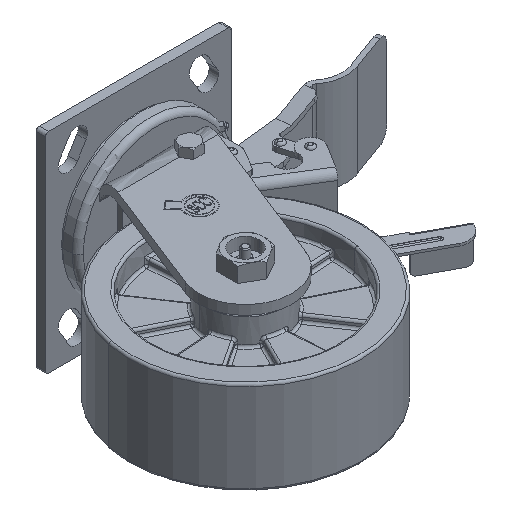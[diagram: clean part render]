
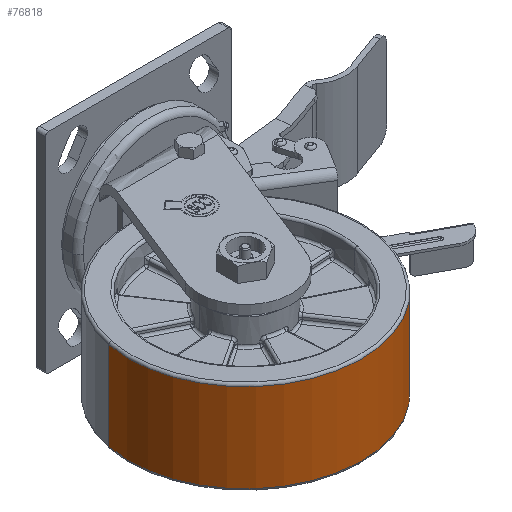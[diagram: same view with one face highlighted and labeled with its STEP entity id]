
A CAD part, isometric view. The second image highlights one B-rep face of the part: STEP entity #76818.
In plain terms, the highlighted cylindrical face has radius 63.5 mm (diameter 127 mm), a partial arc.
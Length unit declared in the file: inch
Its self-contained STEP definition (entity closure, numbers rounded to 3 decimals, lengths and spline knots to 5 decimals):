
#4700 = ORIENTED_EDGE ( 'NONE', *, *, #39206, .F. ) ;
#9649 = VECTOR ( 'NONE', #23998, 39.37008 ) ;
#11334 = DIRECTION ( 'NONE',  ( 0., 0., -1. ) ) ;
#11632 = CARTESIAN_POINT ( 'NONE',  ( 0., 0., 0.95 ) ) ;
#12331 = CIRCLE ( 'NONE', #20842, 2.5 ) ;
#13532 = CIRCLE ( 'NONE', #17883, 2.5 ) ;
#14691 = CARTESIAN_POINT ( 'NONE',  ( 0., 0., -0.95 ) ) ;
#15005 = EDGE_CURVE ( 'NONE', #80484, #26824, #13532, .T. ) ;
#17883 = AXIS2_PLACEMENT_3D ( 'NONE', #11632, #11334, #59915 ) ;
#20842 = AXIS2_PLACEMENT_3D ( 'NONE', #14691, #83265, #83850 ) ;
#23027 = ORIENTED_EDGE ( 'NONE', *, *, #15005, .T. ) ;
#23998 = DIRECTION ( 'NONE',  ( 0., 0., 1. ) ) ;
#26824 = VERTEX_POINT ( 'NONE', #30759 ) ;
#28162 = CARTESIAN_POINT ( 'NONE',  ( -2.45196, 0.48775, -0.95 ) ) ;
#28447 = VECTOR ( 'NONE', #68591, 39.37008 ) ;
#30759 = CARTESIAN_POINT ( 'NONE',  ( -2.45196, 0.48775, 0.95 ) ) ;
#35335 = VERTEX_POINT ( 'NONE', #36178 ) ;
#35909 = EDGE_CURVE ( 'NONE', #35335, #80484, #68647, .T. ) ;
#36178 = CARTESIAN_POINT ( 'NONE',  ( 2.45196, -0.48775, -0.95 ) ) ;
#39206 = EDGE_CURVE ( 'NONE', #55063, #26824, #74864, .T. ) ;
#45570 = EDGE_LOOP ( 'NONE', ( #4700, #58381, #73128, #23027 ) ) ;
#50082 = FACE_OUTER_BOUND ( 'NONE', #45570, .T. ) ;
#52351 = AXIS2_PLACEMENT_3D ( 'NONE', #83605, #56028, #69117 ) ;
#54409 = CYLINDRICAL_SURFACE ( 'NONE', #52351, 2.5 ) ;
#55063 = VERTEX_POINT ( 'NONE', #28162 ) ;
#55187 = CARTESIAN_POINT ( 'NONE',  ( 2.45196, -0.48775, 3.42397 ) ) ;
#56028 = DIRECTION ( 'NONE',  ( 0., 0., 1. ) ) ;
#58381 = ORIENTED_EDGE ( 'NONE', *, *, #89761, .T. ) ;
#59915 = DIRECTION ( 'NONE',  ( 0.981, -0.195, 0. ) ) ;
#65625 = CARTESIAN_POINT ( 'NONE',  ( -2.45196, 0.48775, 3.42397 ) ) ;
#68591 = DIRECTION ( 'NONE',  ( 0., 0., 1. ) ) ;
#68647 = LINE ( 'NONE', #55187, #28447 ) ;
#69117 = DIRECTION ( 'NONE',  ( 0.981, -0.195, 0. ) ) ;
#73128 = ORIENTED_EDGE ( 'NONE', *, *, #35909, .T. ) ;
#74864 = LINE ( 'NONE', #65625, #9649 ) ;
#76818 = ADVANCED_FACE ( 'NONE', ( #50082 ), #54409, .T. ) ;
#77130 = CARTESIAN_POINT ( 'NONE',  ( 2.45196, -0.48775, 0.95 ) ) ;
#80484 = VERTEX_POINT ( 'NONE', #77130 ) ;
#83265 = DIRECTION ( 'NONE',  ( 0., 0., 1. ) ) ;
#83605 = CARTESIAN_POINT ( 'NONE',  ( 0., 0., 3.42397 ) ) ;
#83850 = DIRECTION ( 'NONE',  ( 0.981, -0.195, 0. ) ) ;
#89761 = EDGE_CURVE ( 'NONE', #55063, #35335, #12331, .T. ) ;
